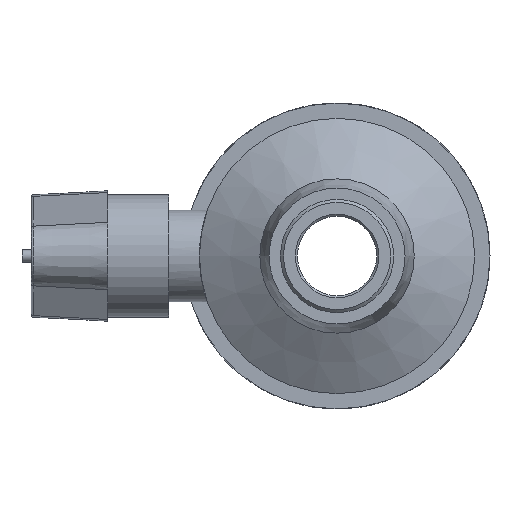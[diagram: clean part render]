
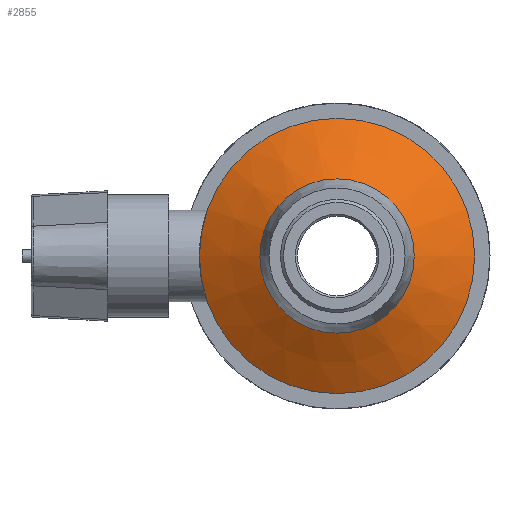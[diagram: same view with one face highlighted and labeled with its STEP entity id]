
A CAD part, left-side view. The second image highlights one B-rep face of the part: STEP entity #2855.
In plain terms, the highlighted conical face has half-angle 60 degrees and reference radius 15.802 mm.
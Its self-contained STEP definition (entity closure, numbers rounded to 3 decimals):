
#34=FACE_BOUND('',#504,.T.);
#153=CONICAL_SURFACE('',#3208,15.802,60.);
#316=FACE_OUTER_BOUND('',#503,.T.);
#503=EDGE_LOOP('',(#2625));
#504=EDGE_LOOP('',(#2626));
#698=CIRCLE('',#3207,11.354);
#699=CIRCLE('',#3209,20.25);
#1373=VERTEX_POINT('',#5630);
#1374=VERTEX_POINT('',#5633);
#1793=EDGE_CURVE('',#1373,#1373,#698,.T.);
#1794=EDGE_CURVE('',#1374,#1374,#699,.T.);
#2625=ORIENTED_EDGE('',*,*,#1794,.F.);
#2626=ORIENTED_EDGE('',*,*,#1793,.T.);
#2855=ADVANCED_FACE('',(#316,#34),#153,.T.);
#3207=AXIS2_PLACEMENT_3D('',#5631,#4072,#4073);
#3208=AXIS2_PLACEMENT_3D('',#5632,#4074,#4075);
#3209=AXIS2_PLACEMENT_3D('',#5634,#4076,#4077);
#4072=DIRECTION('center_axis',(1.,0.,0.));
#4073=DIRECTION('ref_axis',(0.,0.,-1.));
#4074=DIRECTION('center_axis',(1.,0.,0.));
#4075=DIRECTION('ref_axis',(0.,1.,0.));
#4076=DIRECTION('center_axis',(1.,0.,0.));
#4077=DIRECTION('ref_axis',(0.,0.,-1.));
#5630=CARTESIAN_POINT('',(-16.436,11.354,0.));
#5631=CARTESIAN_POINT('Origin',(-16.436,0.,0.));
#5632=CARTESIAN_POINT('Origin',(-13.868,0.,0.));
#5633=CARTESIAN_POINT('',(-11.3,20.25,0.));
#5634=CARTESIAN_POINT('Origin',(-11.3,0.,0.));
